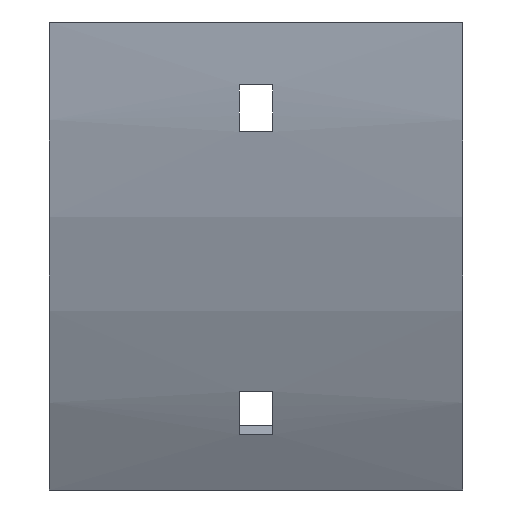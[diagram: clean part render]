
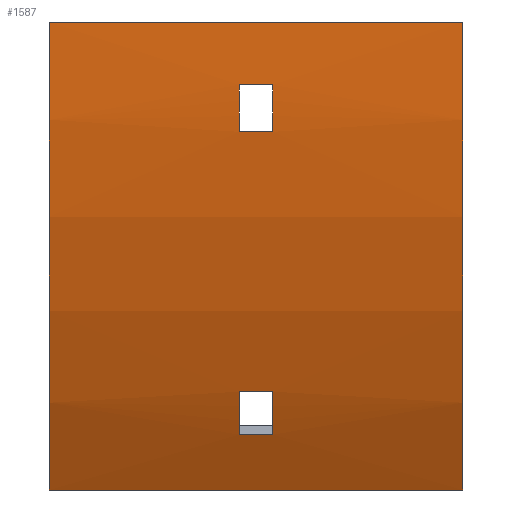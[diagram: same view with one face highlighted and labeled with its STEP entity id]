
A CAD part, front view. The second image highlights one B-rep face of the part: STEP entity #1587.
In plain terms, the highlighted cylindrical face has radius 179 mm (diameter 358 mm), a partial arc.
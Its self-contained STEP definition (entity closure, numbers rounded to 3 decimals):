
#1 = VERTEX_POINT ( 'NONE', #1194 ) ;
#4 = VERTEX_POINT ( 'NONE', #8 ) ;
#8 = CARTESIAN_POINT ( 'NONE',  ( 3.25, -64.448, -70.695 ) ) ;
#20 = ORIENTED_EDGE ( 'NONE', *, *, #337, .F. ) ;
#35 = ORIENTED_EDGE ( 'NONE', *, *, #1367, .F. ) ;
#49 = AXIS2_PLACEMENT_3D ( 'NONE', #671, #405, #1472 ) ;
#59 = DIRECTION ( 'NONE',  ( 0., 0., 1. ) ) ;
#86 = VERTEX_POINT ( 'NONE', #765 ) ;
#108 = DIRECTION ( 'NONE',  ( -1., 0., 0. ) ) ;
#145 = LINE ( 'NONE', #1172, #619 ) ;
#167 = CIRCLE ( 'NONE', #245, 179. ) ;
#184 = CARTESIAN_POINT ( 'NONE',  ( -39.5, 100., 0. ) ) ;
#226 = VERTEX_POINT ( 'NONE', #1617 ) ;
#238 = CARTESIAN_POINT ( 'NONE',  ( 39.5, -79., 0. ) ) ;
#245 = AXIS2_PLACEMENT_3D ( 'NONE', #668, #1693, #657 ) ;
#246 = EDGE_CURVE ( 'NONE', #1247, #226, #491, .T. ) ;
#294 = FACE_BOUND ( 'NONE', #1368, .T. ) ;
#337 = EDGE_CURVE ( 'NONE', #1479, #1, #1148, .T. ) ;
#361 = CARTESIAN_POINT ( 'NONE',  ( -3.25, 100., 0. ) ) ;
#392 = DIRECTION ( 'NONE',  ( 0., 0., -1. ) ) ;
#400 = CARTESIAN_POINT ( 'NONE',  ( 3.25, -78.597, -12. ) ) ;
#405 = DIRECTION ( 'NONE',  ( 1., 0., 0. ) ) ;
#473 = EDGE_CURVE ( 'NONE', #896, #4, #766, .T. ) ;
#477 = DIRECTION ( 'NONE',  ( -1., 0., 0. ) ) ;
#487 = DIRECTION ( 'NONE',  ( 1., 0., 0. ) ) ;
#491 = CIRCLE ( 'NONE', #1664, 179. ) ;
#503 = AXIS2_PLACEMENT_3D ( 'NONE', #909, #524, #392 ) ;
#505 = VERTEX_POINT ( 'NONE', #1259 ) ;
#514 = ORIENTED_EDGE ( 'NONE', *, *, #246, .T. ) ;
#524 = DIRECTION ( 'NONE',  ( 1., 0., 0. ) ) ;
#556 = DIRECTION ( 'NONE',  ( 0., 0., 1. ) ) ;
#587 = LINE ( 'NONE', #238, #1656 ) ;
#605 = EDGE_CURVE ( 'NONE', #1327, #1170, #1424, .T. ) ;
#619 = VECTOR ( 'NONE', #1430, 1000. ) ;
#640 = DIRECTION ( 'NONE',  ( -1., 0., 0. ) ) ;
#643 = VECTOR ( 'NONE', #487, 1000. ) ;
#657 = DIRECTION ( 'NONE',  ( 0., 0., -1. ) ) ;
#668 = CARTESIAN_POINT ( 'NONE',  ( -3.25, 100., 0. ) ) ;
#669 = EDGE_CURVE ( 'NONE', #1554, #505, #167, .T. ) ;
#671 = CARTESIAN_POINT ( 'NONE',  ( 39.5, 100., 0. ) ) ;
#681 = AXIS2_PLACEMENT_3D ( 'NONE', #361, #477, #881 ) ;
#686 = AXIS2_PLACEMENT_3D ( 'NONE', #693, #1372, #59 ) ;
#693 = CARTESIAN_POINT ( 'NONE',  ( 3.25, 100., 0. ) ) ;
#700 = DIRECTION ( 'NONE',  ( 1., 0., 0. ) ) ;
#740 = EDGE_LOOP ( 'NONE', ( #1268, #1243, #1146, #1260 ) ) ;
#763 = CARTESIAN_POINT ( 'NONE',  ( -39.5, -79., 0. ) ) ;
#765 = CARTESIAN_POINT ( 'NONE',  ( 3.25, -77.764, -21. ) ) ;
#766 = CIRCLE ( 'NONE', #686, 179. ) ;
#782 = CIRCLE ( 'NONE', #503, 179. ) ;
#787 = DIRECTION ( 'NONE',  ( -1., 0., 0. ) ) ;
#834 = EDGE_LOOP ( 'NONE', ( #514, #35, #20, #1171 ) ) ;
#847 = ORIENTED_EDGE ( 'NONE', *, *, #1192, .F. ) ;
#879 = DIRECTION ( 'NONE',  ( 1., 0., 0. ) ) ;
#881 = DIRECTION ( 'NONE',  ( 0., 0., 1. ) ) ;
#885 = ORIENTED_EDGE ( 'NONE', *, *, #669, .F. ) ;
#896 = VERTEX_POINT ( 'NONE', #1491 ) ;
#909 = CARTESIAN_POINT ( 'NONE',  ( 3.25, 100., 0. ) ) ;
#959 = CYLINDRICAL_SURFACE ( 'NONE', #1638, 179. ) ;
#987 = CARTESIAN_POINT ( 'NONE',  ( 39.5, -78.597, -12. ) ) ;
#1049 = EDGE_CURVE ( 'NONE', #505, #896, #1141, .T. ) ;
#1056 = CARTESIAN_POINT ( 'NONE',  ( 39.5, -55.019, -89.5 ) ) ;
#1066 = LINE ( 'NONE', #1056, #1503 ) ;
#1104 = CARTESIAN_POINT ( 'NONE',  ( -3.25, -77.764, -21. ) ) ;
#1108 = DIRECTION ( 'NONE',  ( 0., 0., -1. ) ) ;
#1113 = LINE ( 'NONE', #987, #1345 ) ;
#1129 = VERTEX_POINT ( 'NONE', #400 ) ;
#1141 = LINE ( 'NONE', #1659, #643 ) ;
#1146 = ORIENTED_EDGE ( 'NONE', *, *, #1632, .T. ) ;
#1148 = CIRCLE ( 'NONE', #49, 179. ) ;
#1152 = EDGE_CURVE ( 'NONE', #1129, #86, #782, .T. ) ;
#1160 = EDGE_CURVE ( 'NONE', #86, #1327, #145, .T. ) ;
#1170 = VERTEX_POINT ( 'NONE', #1690 ) ;
#1171 = ORIENTED_EDGE ( 'NONE', *, *, #1270, .T. ) ;
#1172 = CARTESIAN_POINT ( 'NONE',  ( 39.5, -77.764, -21. ) ) ;
#1189 = CARTESIAN_POINT ( 'NONE',  ( 39.5, -64.448, -70.695 ) ) ;
#1192 = EDGE_CURVE ( 'NONE', #4, #1554, #1439, .T. ) ;
#1194 = CARTESIAN_POINT ( 'NONE',  ( 39.5, -55.019, -89.5 ) ) ;
#1214 = CARTESIAN_POINT ( 'NONE',  ( 39.5, 100., 0. ) ) ;
#1243 = ORIENTED_EDGE ( 'NONE', *, *, #605, .T. ) ;
#1247 = VERTEX_POINT ( 'NONE', #763 ) ;
#1259 = CARTESIAN_POINT ( 'NONE',  ( -3.25, -60.67, -78.906 ) ) ;
#1260 = ORIENTED_EDGE ( 'NONE', *, *, #1152, .T. ) ;
#1268 = ORIENTED_EDGE ( 'NONE', *, *, #1160, .T. ) ;
#1270 = EDGE_CURVE ( 'NONE', #1479, #1247, #587, .T. ) ;
#1296 = ORIENTED_EDGE ( 'NONE', *, *, #1049, .F. ) ;
#1327 = VERTEX_POINT ( 'NONE', #1104 ) ;
#1345 = VECTOR ( 'NONE', #879, 1000. ) ;
#1367 = EDGE_CURVE ( 'NONE', #1, #226, #1066, .T. ) ;
#1368 = EDGE_LOOP ( 'NONE', ( #885, #847, #1662, #1296 ) ) ;
#1372 = DIRECTION ( 'NONE',  ( -1., 0., 0. ) ) ;
#1424 = CIRCLE ( 'NONE', #681, 179. ) ;
#1430 = DIRECTION ( 'NONE',  ( -1., 0., 0. ) ) ;
#1438 = VECTOR ( 'NONE', #787, 1000. ) ;
#1439 = LINE ( 'NONE', #1189, #1438 ) ;
#1467 = FACE_BOUND ( 'NONE', #740, .T. ) ;
#1472 = DIRECTION ( 'NONE',  ( 0., 0., -1. ) ) ;
#1479 = VERTEX_POINT ( 'NONE', #1548 ) ;
#1482 = DIRECTION ( 'NONE',  ( -1., 0., 0. ) ) ;
#1491 = CARTESIAN_POINT ( 'NONE',  ( 3.25, -60.67, -78.906 ) ) ;
#1503 = VECTOR ( 'NONE', #640, 1000. ) ;
#1548 = CARTESIAN_POINT ( 'NONE',  ( 39.5, -79., 0. ) ) ;
#1554 = VERTEX_POINT ( 'NONE', #1592 ) ;
#1587 = ADVANCED_FACE ( 'NONE', ( #1606, #1467, #294 ), #959, .T. ) ;
#1592 = CARTESIAN_POINT ( 'NONE',  ( -3.25, -64.448, -70.695 ) ) ;
#1606 = FACE_OUTER_BOUND ( 'NONE', #834, .T. ) ;
#1617 = CARTESIAN_POINT ( 'NONE',  ( -39.5, -55.019, -89.5 ) ) ;
#1632 = EDGE_CURVE ( 'NONE', #1170, #1129, #1113, .T. ) ;
#1638 = AXIS2_PLACEMENT_3D ( 'NONE', #1214, #1482, #556 ) ;
#1656 = VECTOR ( 'NONE', #108, 1000. ) ;
#1659 = CARTESIAN_POINT ( 'NONE',  ( 39.5, -60.67, -78.906 ) ) ;
#1662 = ORIENTED_EDGE ( 'NONE', *, *, #473, .F. ) ;
#1664 = AXIS2_PLACEMENT_3D ( 'NONE', #184, #700, #1108 ) ;
#1690 = CARTESIAN_POINT ( 'NONE',  ( -3.25, -78.597, -12. ) ) ;
#1693 = DIRECTION ( 'NONE',  ( 1., 0., 0. ) ) ;
